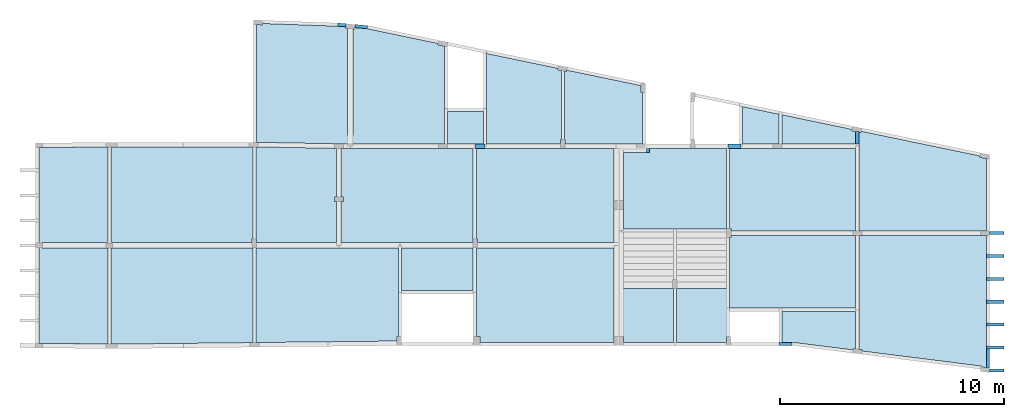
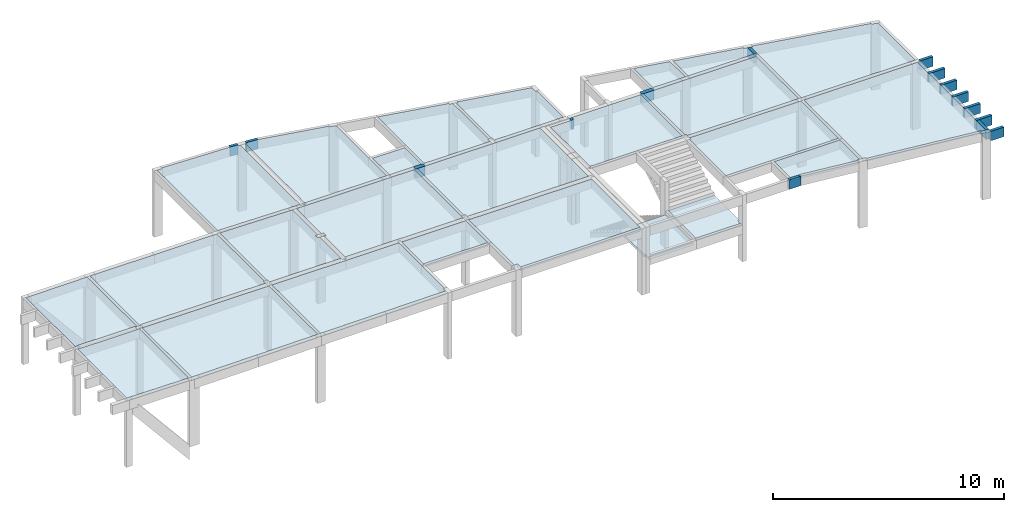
# One storey, part 3 of 4: 25 slabs, 15 beams.
"""IFC4 building model written with IfcOpenShell, lengths in centimetres."""

from ifc_helpers import new_model, si_unit, derived_unit, frame, origin, origin_with_axes, origin_2d_with_axis, place, context, project, spatial, polyline, rectangle, outline, extrude, clip, halfspace, material, element, save


model = new_model("IFC4")

# Units and contexts
model_context = context("Model", 3, precision=1e-05, world=origin_with_axes(), identifier="Body")
ifc_project = project(units=[si_unit("LENGTHUNIT", "METRE", prefix="CENTI"), si_unit("VOLUMEUNIT", "CUBIC_METRE"), si_unit("AREAUNIT", "SQUARE_METRE"), si_unit("POWERUNIT", "WATT"), si_unit("LUMINOUSFLUXUNIT", "LUMEN"), si_unit("ELECTRICCURRENTUNIT", "AMPERE"), si_unit("PRESSUREUNIT", "PASCAL", prefix="KILO"), si_unit("MASSUNIT", "GRAM", prefix="KILO"), si_unit("PLANEANGLEUNIT", "RADIAN"), derived_unit("VOLUMETRICFLOWRATEUNIT", [(si_unit("LENGTHUNIT", "METRE"), 3), (si_unit("TIMEUNIT", "SECOND"), -1)])], contexts=[model_context])

# Site, building, storey
site_placement = place(None, origin_with_axes())
site = spatial("IfcSite", under=ifc_project, at=site_placement)
building_placement = place(site_placement, origin())
building = spatial("IfcBuilding", under=site, at=building_placement)
placement_1 = place(building_placement, origin_with_axes())
placement_2 = place(placement_1, frame((0.0, 0.0, 550.0), z_axis=(0.0, 0.0, 1.0), x_axis=(1.0, 0.0, 0.0)))
placement_3 = place(placement_2, frame((0.0, 0.0, 350.0), z_axis=(0.0, 0.0, 1.0), x_axis=(1.0, 0.0, 0.0)))
storey_placement = place(placement_3, frame((0.0, 0.0, 350.0), z_axis=(0.0, 0.0, 1.0), x_axis=(1.0, 0.0, 0.0)))
storey = spatial("IfcBuildingStorey", under=building, at=storey_placement, Name="2º PAV.", CompositionType="ELEMENT", Elevation=1250.0)

# Beams
ifc_material = material(Name="Concreto")
beam_1_placement = place(storey_placement, frame((4338.1, -843.1, 0.0), z_axis=(0.0, 0.0, 1.0), x_axis=(1.0, 0.0, 0.0)))
element("IfcBeam", 1, at=beam_1_placement, inside=storey, material=ifc_material, Name="V11", context=model_context, shape_type="SolidModel", body=[
    extrude(rectangle(XDim=14.0, YDim=50.0, at=origin_2d_with_axis()), frame((-32.5, 0.0, -25.0), z_axis=(1.0, 0.0, 0.0), x_axis=(0.0, 1.0, 0.0)), (0.0, 0.0, 1.0), 65.0),
])
for number, where, z_axis, x_axis, name in (
    (2, (4331.1, -945.1, 0.0), (0.0, 0.0, 1.0), (1.0, 0.0, 0.0), "V14"),
    (3, (4331.1, -1047.15, 0.0), (0.0, 0.0, 1.0), (1.0, 0.0, 0.0), "V16"),
    (4, (4331.1, -1149.15, 0.0), (0.0, 0.0, 1.0), (1.0, 0.0, 0.0), "V20"),
    (5, (4331.1, -1251.15, 0.0), (0.0, 0.0, 1.0), (1.0, 0.0, 0.0), "V22"),
    (6, (4331.1, -1353.2, 0.0), (0.0, 0.0, 1.0), (1.0, 0.0, 0.0), "V25"),
):
    element("IfcBeam", number, at=place(storey_placement, frame(where, z_axis=z_axis, x_axis=x_axis)), inside=storey, material=ifc_material, Name=name, context=model_context, shape_type="SolidModel", body=[
        extrude(rectangle(XDim=14.0, YDim=50.0, at=origin_2d_with_axis()), frame((-39.5, 0.0, -25.0), z_axis=(1.0, 0.0, 0.0), x_axis=(0.0, 1.0, 0.0)), (0.0, 0.0, 1.0), 79.0),
    ])
beam_2_placement = place(storey_placement, frame((4337.368383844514, -1455.2, 0.0), z_axis=(0.0, 0.0, 1.0), x_axis=(1.0, 0.0, 0.0)))
element("IfcBeam", 7, at=beam_2_placement, inside=storey, material=ifc_material, Name="V26", context=model_context, shape_type="SolidModel", body=[
    extrude(rectangle(XDim=14.0, YDim=50.0, at=origin_2d_with_axis()), frame((-33.231616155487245, 0.0, -25.0), z_axis=(1.0, 0.0, 0.0), x_axis=(0.0, 1.0, 0.0)), (0.0, 0.0, 1.0), 66.46323231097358),
])
beam_3_placement = place(storey_placement, frame((2034.8, -455.9, 0.0), z_axis=(0.0, 0.0, 1.0), x_axis=(1.0, 0.0, 0.0)))
element("IfcBeam", 8, at=beam_3_placement, inside=storey, material=ifc_material, Name="V3", context=model_context, shape_type="SolidModel", body=[
    extrude(rectangle(XDim=20.0, YDim=50.0, at=origin_2d_with_axis()), frame((-23.2, 0.0, -25.0), z_axis=(1.0, 0.0, 0.0), x_axis=(0.0, 1.0, 0.0)), (0.0, 0.0, 1.0), 46.4),
])
beam_4_placement = place(storey_placement, frame((2784.0, -474.925, 0.0), z_axis=(0.0, 0.0, 1.0), x_axis=(1.0, 0.0, 0.0)))
element("IfcBeam", 9, at=beam_4_placement, inside=storey, material=ifc_material, Name="V40", context=model_context, shape_type="SolidModel", body=[
    extrude(rectangle(XDim=14.0, YDim=50.0, at=origin_2d_with_axis()), frame((0.0, -9.025, -25.0), z_axis=(0.0, 1.0, 0.0), x_axis=(1.0, 0.0, 0.0)), (0.0, 0.0, 1.0), 18.05),
])
beam_5_placement = place(storey_placement, frame((3716.6, -418.10970030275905, 0.0), z_axis=(0.0, 0.0, 1.0), x_axis=(1.0, 0.0, 0.0)))
element("IfcBeam", 10, at=beam_5_placement, inside=storey, material=ifc_material, Name="V48", context=model_context, shape_type="SolidModel", body=[
    extrude(rectangle(XDim=14.0, YDim=50.0, at=origin_2d_with_axis()), frame((0.0, -27.79029969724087, -25.0), z_axis=(0.0, 1.0, 0.0), x_axis=(1.0, 0.0, 0.0)), (0.0, 0.0, 1.0), 55.580599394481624),
])
beam_6_placement = place(storey_placement, frame((4298.6, -1402.3660584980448, 0.0), z_axis=(0.0, 0.0, 1.0), x_axis=(1.0, 0.0, 0.0)))
element("IfcBeam", 11, at=beam_6_placement, inside=storey, material=ifc_material, Name="V49", context=model_context, shape_type="SolidModel", body=[
    extrude(rectangle(XDim=14.0, YDim=50.0, at=origin_2d_with_axis()), frame((0.0, -42.166058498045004, -25.0), z_axis=(0.0, 1.0, 0.0), x_axis=(1.0, 0.0, 0.0)), (0.0, 0.0, 1.0), 84.33211699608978),
])
beam_7_placement = place(storey_placement, frame((3169.8, -455.9, 0.0), z_axis=(0.0, 0.0, 1.0), x_axis=(1.0, 0.0, 0.0)))
element("IfcBeam", 12, at=beam_7_placement, inside=storey, material=ifc_material, Name="V5", context=model_context, shape_type="SolidModel", body=[
    extrude(rectangle(XDim=20.0, YDim=50.0, at=origin_2d_with_axis()), frame((-29.2, 0.0, -25.0), z_axis=(1.0, 0.0, 0.0), x_axis=(0.0, 1.0, 0.0)), (0.0, 0.0, 1.0), 58.4),
])
beam_8_placement = place(storey_placement, frame((1505.3493357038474, 77.27788294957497, 0.0), z_axis=(0.0, 0.0, 1.0), x_axis=(1.0, 0.0, 0.0)))
element("IfcBeam", 13, at=beam_8_placement, inside=storey, material=ifc_material, Name="V50", context=model_context, shape_type="Clipping", body=[
    clip(extrude(rectangle(XDim=14.0, YDim=50.0, at=origin_2d_with_axis()), frame((-28.0693357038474, 2.362117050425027, -25.0), z_axis=(0.99637095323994, -0.085117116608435, 0.0), x_axis=(0.085117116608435, 0.99637095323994, 0.0)), (0.0, 0.0, 1.0), 56.343143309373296), halfspace(frame((28.66515552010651, 4.540947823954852, -50.0), z_axis=(-0.989480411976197, 0.144666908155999, 0.0), x_axis=(0.0, 0.0, -0.059920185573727)), True)),
])
beam_9_placement = place(storey_placement, frame((1419.3262803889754, 84.60237581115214, 0.0), z_axis=(0.0, 0.0, 1.0), x_axis=(1.0, 0.0, 0.0)))
element("IfcBeam", 14, at=beam_9_placement, inside=storey, material=ifc_material, Name="V50", context=model_context, shape_type="Clipping", body=[
    clip(extrude(rectangle(XDim=14.0, YDim=50.0, at=origin_2d_with_axis()), frame((-18.448841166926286, 1.562375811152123, -25.0), z_axis=(0.996365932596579, -0.085175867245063, 0.0), x_axis=(0.085175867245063, 0.996365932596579, 0.0)), (0.0, 0.0, 1.0), 36.68587973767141), halfspace(frame((-17.85261009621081, 8.536937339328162, 0.0), z_axis=(0.998167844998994, -0.060505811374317, 0.0), x_axis=(0.0, 0.0, -0.024733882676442)), True)),
])
beam_10_placement = place(storey_placement, frame((3397.217338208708, -1337.0556334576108, 0.0), z_axis=(0.0, 0.0, 1.0), x_axis=(1.0, 0.0, 0.0)))
element("IfcBeam", 15, at=beam_10_placement, inside=storey, material=ifc_material, Name="V52", context=model_context, shape_type="Clipping", body=[
    clip(extrude(rectangle(XDim=14.0, YDim=50.0, at=origin_2d_with_axis()), frame((-29.618689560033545, -0.005718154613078, -25.0), z_axis=(1.0, 0.000193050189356, 0.0), x_axis=(-0.000193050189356, 1.0, 0.0)), (0.0, 0.0, 1.0), 59.24008292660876), halfspace(frame((29.620040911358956, 7.005718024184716, -50.0), z_axis=(-0.998053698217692, 0.06236036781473, 0.0), x_axis=(0.0, 0.0, -0.062553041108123)), True)),
])

# Slabs
slab_1_placement = place(storey_placement, frame((1243.2995, -177.359, 0.0), z_axis=(0.0, 0.0, 1.0), x_axis=(1.0, 0.0, 0.0)))
element("IfcSlab", 16, at=slab_1_placement, inside=storey, material=ifc_material, Name="L1", PredefinedType="FLOOR", context=model_context, shape_type="SolidModel", body=[
    extrude(outline(polyline([(201.299, -268.540344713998), (201.299, -265.6913447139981), (203.799, -265.6913447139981), (203.799, -231.69134471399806), (201.299, -231.69134471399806), (201.299, 246.72665528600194), (193.009, 247.43765528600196), (193.523, 253.42465528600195), (157.33, 256.52865528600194), (-178.341, 268.540655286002), (-178.56, 262.5586552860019), (-203.8, 263.47965528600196), (-203.799, -261.440344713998), (-198.3, -261.4413447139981), (182.7, -268.541344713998), (201.299, -268.540344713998), (201.299, -268.540344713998)])), frame((0.0005, 0.000344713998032, -15.0), z_axis=(0.0, 0.0, 1.0), x_axis=(1.0, 0.0, 0.0)), (0.0, 0.0, 1.0), 15.0),
])
slab_2_placement = place(storey_placement, frame((706.225, -674.11, 0.0), z_axis=(0.0, 0.0, 1.0), x_axis=(1.0, 0.0, 0.0)))
element("IfcSlab", 17, at=slab_2_placement, inside=storey, material=ifc_material, Name="L10", PredefinedType="FLOOR", context=model_context, shape_type="SolidModel", body=[
    extrude(outline(polyline([(-311.475, -211.429), (313.284, -211.41), (313.345, -194.26), (316.474, -194.27), (316.475, 215.31), (-316.474, 215.31), (-316.475, -215.31), (-311.475, -215.31), (-311.475, -211.429), (-311.475, -211.429)])), frame((0.0, 0.0, -20.0), z_axis=(0.0, 0.0, 1.0), x_axis=(1.0, 0.0, 0.0)), (0.0, 0.0, 1.0), 20.0),
])
slab_3_placement = place(storey_placement, frame((1216.3505, -672.1595, 0.0), z_axis=(0.0, 0.0, 1.0), x_axis=(1.0, 0.0, 0.0)))
element("IfcSlab", 18, at=slab_3_placement, inside=storey, material=ifc_material, Name="L11", PredefinedType="FLOOR", context=model_context, shape_type="SolidModel", body=[
    extrude(outline(polyline([(179.649, -30.739), (169.65, -30.739), (169.65, -10.739), (179.65, -10.739), (179.65, 206.26), (169.65, 206.26), (169.65, 207.005), (-171.35, 213.36), (-179.649, 213.36), (-179.649, -196.269), (-176.78, -196.28), (-176.839, -213.359), (179.649, -213.359), (179.649, -30.739), (179.649, -30.739)])), frame((-0.0005, -0.0005, -20.0), z_axis=(0.0, 0.0, 1.0), x_axis=(1.0, 0.0, 0.0)), (0.0, 0.0, 1.0), 20.0),
])
slab_4_placement = place(storey_placement, frame((1710.2995, -675.71, 0.0), z_axis=(0.0, 0.0, 1.0), x_axis=(1.0, 0.0, 0.0)))
element("IfcSlab", 19, at=slab_4_placement, inside=storey, material=ifc_material, Name="L12", PredefinedType="FLOOR", context=model_context, shape_type="SolidModel", body=[
    extrude(outline(polyline([(-294.299, -209.81), (294.299, -209.809), (294.299, 209.81), (-294.3, 209.81), (-294.3, -7.189), (-284.3, -7.189), (-284.3, -27.189), (-294.3, -27.189), (-294.299, -209.81), (-294.299, -209.81)])), frame((0.0005, 0.0, -20.0), z_axis=(0.0, 0.0, 1.0), x_axis=(1.0, 0.0, 0.0)), (0.0, 0.0, 1.0), 20.0),
])
slab_5_placement = place(storey_placement, frame((2325.1, -675.7095, 0.0), z_axis=(0.0, 0.0, 1.0), x_axis=(1.0, 0.0, 0.0)))
element("IfcSlab", 20, at=slab_5_placement, inside=storey, material=ifc_material, Name="L13", PredefinedType="FLOOR", context=model_context, shape_type="SolidModel", body=[
    extrude(outline(polyline([(306.5, -209.809), (306.499, 209.81), (-306.5, 209.81), (-306.5, -192.69), (-300.5, -192.689), (-300.5, -209.809), (306.5, -209.809), (306.5, -209.809)])), frame((0.0, -0.0005, -20.0), z_axis=(0.0, 0.0, 1.0), x_axis=(1.0, 0.0, 0.0)), (0.0, 0.0, 1.0), 20.0),
])
slab_6_placement = place(storey_placement, frame((2903.5995, -645.0, 0.0), z_axis=(0.0, 0.0, 1.0), x_axis=(1.0, 0.0, 0.0)))
element("IfcSlab", 21, at=slab_6_placement, inside=storey, material=ifc_material, Name="L14", PredefinedType="FLOOR", context=model_context, shape_type="SolidModel", body=[
    extrude(outline(polyline([(229.999, -179.099), (229.999, 179.1), (-112.599, 179.099), (-112.6, 168.05), (-119.6, 168.05), (-119.6, 161.05), (-230.0, 161.049), (-229.999, -179.1), (229.999, -179.099), (229.999, -179.099)])), frame((0.0005, 0.0, -15.0), z_axis=(0.0, 0.0, 1.0), x_axis=(1.0, 0.0, 0.0)), (0.0, 0.0, 1.0), 15.0),
])
slab_7_placement = place(storey_placement, frame((3428.6, -649.5005, 0.0), z_axis=(0.0, 0.0, 1.0), x_axis=(1.0, 0.0, 0.0)))
element("IfcSlab", 22, at=slab_7_placement, inside=storey, material=ifc_material, Name="L15", PredefinedType="FLOOR", context=model_context, shape_type="SolidModel", body=[
    extrude(outline(polyline([(281.0, -183.599), (281.0, 183.599), (-280.999, 183.599), (-281.0, -174.099), (-275.0, -174.1), (-275.0, -183.6), (281.0, -183.599), (281.0, -183.599)])), frame((0.0, 0.0005, -15.0), z_axis=(0.0, 0.0, 1.0), x_axis=(1.0, 0.0, 0.0)), (0.0, 0.0, 1.0), 15.0),
])
slab_8_placement = place(storey_placement, frame((3428.6, -1015.5005, 0.0), z_axis=(0.0, 0.0, 1.0), x_axis=(1.0, 0.0, 0.0)))
element("IfcSlab", 23, at=slab_8_placement, inside=storey, material=ifc_material, Name="L16", PredefinedType="FLOOR", context=model_context, shape_type="SolidModel", body=[
    extrude(outline(polyline([(280.999, 162.399), (-275.0, 162.399), (-275.0, 151.899), (-281.0, 151.899), (-280.999, -162.4), (281.0, -162.4), (280.999, 162.399), (280.999, 162.399)])), frame((0.0, 0.0005, -15.0), z_axis=(0.0, 0.0, 1.0), x_axis=(1.0, 0.0, 0.0)), (0.0, 0.0, 1.0), 15.0),
])
slab_9_placement = place(storey_placement, frame((4007.6, -1147.9315, 0.0), z_axis=(0.0, 0.0, 1.0), x_axis=(1.0, 0.0, 0.0)))
element("IfcSlab", 24, at=slab_9_placement, inside=storey, material=ifc_material, Name="L17", PredefinedType="FLOOR", context=model_context, shape_type="SolidModel", body=[
    extrude(outline(polyline([(283.999, -294.8314240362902), (284.0, 294.8315759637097), (-283.999, 294.8315759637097), (-284.0, -213.3304240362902), (-268.65, -215.2684240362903), (-269.405, -221.24242403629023), (262.54, -288.1474240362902), (262.045, -292.05442403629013), (283.999, -294.8314240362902), (283.999, -294.8314240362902)])), frame((0.0, -7.5963709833e-05, -15.0), z_axis=(0.0, 0.0, 1.0), x_axis=(1.0, 0.0, 0.0)), (0.0, 0.0, 1.0), 15.0),
])
slab_10_placement = place(storey_placement, frame((222.1755, -1123.315, 0.0), z_axis=(0.0, 0.0, 1.0), x_axis=(1.0, 0.0, 0.0)))
element("IfcSlab", 25, at=slab_10_placement, inside=storey, material=ifc_material, Name="L18", PredefinedType="FLOOR", context=model_context, shape_type="SolidModel", body=[
    extrude(outline(polyline([(153.574, 213.894), (148.575, 213.894), (148.575, 212.775), (-140.625, 212.775), (-140.625, 214.885), (-153.574, 214.885), (-153.574, -211.385), (-137.575, -211.385), (-137.575, -211.66), (148.664, -214.125), (148.661, -214.885), (153.575, -214.885), (153.574, 213.894), (153.574, 213.894)])), frame((-0.0005, 0.0, -15.0), z_axis=(0.0, 0.0, 1.0), x_axis=(1.0, 0.0, 0.0)), (0.0, 0.0, 1.0), 15.0),
])
slab_11_placement = place(storey_placement, frame((706.225, -1123.2855, 0.0), z_axis=(0.0, 0.0, 1.0), x_axis=(1.0, 0.0, 0.0)))
element("IfcSlab", 26, at=slab_11_placement, inside=storey, material=ifc_material, Name="L19", PredefinedType="FLOOR", context=model_context, shape_type="SolidModel", body=[
    extrude(outline(polyline([(7.395, -211.6146739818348), (303.475, -208.32767398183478), (303.475, -207.71467398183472), (316.475, -207.71467398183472), (316.475, 214.9133260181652), (316.248, 214.9143260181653), (316.245, 212.7653260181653), (-311.475, 212.74532601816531), (-311.475, 213.86432601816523), (-316.475, 213.86432601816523), (-316.475, -214.91467398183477), (-288.475, -214.91467398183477), (7.395, -211.6146739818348), (7.395, -211.6146739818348)])), frame((0.0, 0.000173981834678, -20.0), z_axis=(0.0, 0.0, 1.0), x_axis=(1.0, 0.0, 0.0)), (0.0, 0.0, 1.0), 20.0),
])
slab_12_placement = place(storey_placement, frame((1672.05, -186.6175, 0.0), z_axis=(0.0, 0.0, 1.0), x_axis=(1.0, 0.0, 0.0)))
element("IfcSlab", 27, at=slab_12_placement, inside=storey, material=ifc_material, Name="L2", PredefinedType="FLOOR", context=model_context, shape_type="SolidModel", body=[
    extrude(outline(polyline([(204.949, -259.2812036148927), (204.95, 176.6857963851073), (175.729, 182.7377963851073), (176.942, 188.59879638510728), (-140.079, 254.56379638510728), (-195.364, 259.28179638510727), (-195.879, 253.27779638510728), (-202.449, 253.8407963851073), (-202.45, -222.43220361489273), (-204.95, -222.43220361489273), (-204.95, -256.4322036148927), (-202.45, -256.4322036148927), (-202.45, -259.2812036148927), (204.949, -259.2812036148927), (204.949, -259.2812036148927)])), frame((0.0, -0.000296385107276, -15.0), z_axis=(0.0, 0.0, 1.0), x_axis=(1.0, 0.0, 0.0)), (0.0, 0.0, 1.0), 15.0),
])
slab_13_placement = place(storey_placement, frame((1353.65, -1120.76, 0.0), z_axis=(0.0, 0.0, 1.0), x_axis=(1.0, 0.0, 0.0)))
element("IfcSlab", 28, at=slab_13_placement, inside=storey, material=ifc_material, Name="L20", PredefinedType="FLOOR", context=model_context, shape_type="SolidModel", body=[
    extrude(outline(polyline([(3.389, -206.98), (310.949, -203.563), (310.949, -183.339), (316.949, -183.34), (316.95, 210.239), (-316.95, 210.24), (-316.949, -210.24), (-303.949, -210.24), (3.389, -206.98), (3.389, -206.98)])), frame((0.0, 0.0, -20.0), z_axis=(0.0, 0.0, 1.0), x_axis=(1.0, 0.0, 0.0)), (0.0, 0.0, 1.0), 20.0),
])
slab_14_placement = place(storey_placement, frame((1844.6, -1005.2095, 0.0), z_axis=(0.0, 0.0, 1.0), x_axis=(1.0, 0.0, 0.0)))
element("IfcSlab", 29, at=slab_14_placement, inside=storey, material=ifc_material, Name="L21", PredefinedType="FLOOR", context=model_context, shape_type="SolidModel", body=[
    extrude(outline(polyline([(160.0, 94.69), (-160.0, 94.69), (-160.0, -94.689), (159.999, -94.689), (160.0, 94.69), (160.0, 94.69)])), frame((0.0, -0.0005, -20.0), z_axis=(0.0, 0.0, 1.0), x_axis=(1.0, 0.0, 0.0)), (0.0, 0.0, 1.0), 20.0),
])
slab_15_placement = place(storey_placement, frame((2325.0995, -1119.25, 0.0), z_axis=(0.0, 0.0, 1.0), x_axis=(1.0, 0.0, 0.0)))
element("IfcSlab", 30, at=slab_15_placement, inside=storey, material=ifc_material, Name="L22", PredefinedType="FLOOR", context=model_context, shape_type="SolidModel", body=[
    extrude(outline(polyline([(306.499, 208.73), (-303.5, 208.73), (-303.5, 210.85), (-306.5, 210.849), (-306.499, -184.85), (-290.5, -184.849), (-290.5, -210.849), (306.499, -210.85), (306.499, 208.73), (306.499, 208.73)])), frame((0.0005, 0.0, -20.0), z_axis=(0.0, 0.0, 1.0), x_axis=(1.0, 0.0, 0.0)), (0.0, 0.0, 1.0), 20.0),
])
slab_16_placement = place(storey_placement, frame((3545.6, -1278.043, 0.0), z_axis=(0.0, 0.0, 1.0), x_axis=(1.0, 0.0, 0.0)))
element("IfcSlab", 31, at=slab_16_placement, inside=storey, material=ifc_material, Name="L23", PredefinedType="FLOOR", context=model_context, shape_type="SolidModel", body=[
    extrude(outline(polyline([(153.66, -80.14696897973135), (164.0, -81.45196897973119), (164.0, 86.14303102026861), (-163.999, 86.14303102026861), (-164.0, -52.01496897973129), (-119.199, -52.00596897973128), (-119.199, -59.00596897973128), (-118.33, -52.05596897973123), (152.904, -86.14296897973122), (153.66, -80.14696897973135), (153.66, -80.14696897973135)])), frame((0.0, -3.102026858e-05, -22.0), z_axis=(0.0, 0.0, 1.0), x_axis=(1.0, 0.0, 0.0)), (0.0, 0.0, 1.0), 22.0),
])
slab_17_placement = place(storey_placement, frame((2231.25, -244.369, 0.0), z_axis=(0.0, 0.0, 1.0), x_axis=(1.0, 0.0, 0.0)))
element("IfcSlab", 32, at=slab_17_placement, inside=storey, material=ifc_material, Name="L3", PredefinedType="FLOOR", context=model_context, shape_type="SolidModel", body=[
    extrude(outline(polyline([(163.25, -181.53013458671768), (166.25, -181.53113458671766), (166.25, 126.37886541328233), (149.88, 129.79886541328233), (151.103, 135.6578654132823), (-166.249, 201.53086541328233), (-166.25, -201.53113458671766), (163.25, -201.53113458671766), (163.25, -181.53013458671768), (163.25, -181.53013458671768)])), frame((0.0, 0.00013458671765, -15.0), z_axis=(0.0, 0.0, 1.0), x_axis=(1.0, 0.0, 0.0)), (0.0, 0.0, 1.0), 15.0),
])
slab_18_placement = place(storey_placement, frame((2585.25, -281.371, 0.0), z_axis=(0.0, 0.0, 1.0), x_axis=(1.0, 0.0, 0.0)))
element("IfcSlab", 33, at=slab_18_placement, inside=storey, material=ifc_material, Name="L4", PredefinedType="FLOOR", context=model_context, shape_type="SolidModel", body=[
    extrude(outline(polyline([(173.75, 65.87954786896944), (167.75, 65.87954786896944), (167.749, 95.73054786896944), (-163.725, 164.5285478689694), (-164.96, 158.62054786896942), (-173.75, 160.45654786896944), (-173.75, -144.52845213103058), (-170.75, -144.52845213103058), (-170.749, -164.52945213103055), (173.75, -164.52945213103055), (173.75, 65.87954786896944), (173.75, 65.87954786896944)])), frame((0.0, 0.000452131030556, -15.0), z_axis=(0.0, 0.0, 1.0), x_axis=(1.0, 0.0, 0.0)), (0.0, 0.0, 1.0), 15.0),
])
slab_19_placement = place(storey_placement, frame((1971.0, -373.925, 0.0), z_axis=(0.0, 0.0, 1.0), x_axis=(1.0, 0.0, 0.0)))
element("IfcSlab", 34, at=slab_19_placement, inside=storey, material=ifc_material, Name="L5", PredefinedType="FLOOR", context=model_context, shape_type="SolidModel", body=[
    extrude(outline(polyline([(79.999, 71.974), (-80.0, 71.974), (-80.0, -71.974), (80.0, -71.974), (79.999, 71.974), (79.999, 71.974)])), frame((0.0, 0.0, -15.0), z_axis=(0.0, 0.0, 1.0), x_axis=(1.0, 0.0, 0.0)), (0.0, 0.0, 1.0), 15.0),
])
slab_20_placement = place(storey_placement, frame((3286.7995, -362.779, 0.0), z_axis=(0.0, 0.0, 1.0), x_axis=(1.0, 0.0, 0.0)))
element("IfcSlab", 35, at=slab_20_placement, inside=storey, material=ifc_material, Name="L6", PredefinedType="FLOOR", context=model_context, shape_type="SolidModel", body=[
    extrude(outline(polyline([(-80.8, -83.12111332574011), (80.799, -83.12011332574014), (80.799, 49.57688667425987), (-80.8, 83.12088667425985), (-80.8, -83.12111332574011), (-80.8, -83.12111332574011)])), frame((0.0005, 0.000113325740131, -15.0), z_axis=(0.0, 0.0, 1.0), x_axis=(1.0, 0.0, 0.0)), (0.0, 0.0, 1.0), 15.0),
])
slab_21_placement = place(storey_placement, frame((3545.6, -381.004, 0.0), z_axis=(0.0, 0.0, 1.0), x_axis=(1.0, 0.0, 0.0)))
element("IfcSlab", 36, at=slab_21_placement, inside=storey, material=ifc_material, Name="L7", PredefinedType="FLOOR", context=model_context, shape_type="SolidModel", body=[
    extrude(outline(polyline([(164.0, -9.31805229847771), (147.329, -5.835052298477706), (148.551, 0.012947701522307), (-164.0, 64.89594770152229), (-164.0, -64.89505229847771), (163.999, -64.89605229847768), (164.0, -9.31805229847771), (164.0, -9.31805229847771)])), frame((0.0, 5.2298477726e-05, -15.0), z_axis=(0.0, 0.0, 1.0), x_axis=(1.0, 0.0, 0.0)), (0.0, 0.0, 1.0), 15.0),
])
slab_22_placement = place(storey_placement, frame((4007.6, -611.1105, 0.0), z_axis=(0.0, 0.0, 1.0), x_axis=(1.0, 0.0, 0.0)))
element("IfcSlab", 37, at=slab_22_placement, inside=storey, material=ifc_material, Name="L8", PredefinedType="FLOOR", context=model_context, shape_type="SolidModel", body=[
    extrude(outline(polyline([(284.0, 100.00032626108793), (254.759, 106.11032626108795), (255.977, 111.93832626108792), (-274.277, 221.98932626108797), (-275.509, 216.09032626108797), (-284.0, 217.86332626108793), (-283.999, -221.98867373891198), (283.999, -221.98967373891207), (284.0, 100.00032626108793), (284.0, 100.00032626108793)])), frame((0.0, 0.000173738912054, -15.0), z_axis=(0.0, 0.0, 1.0), x_axis=(1.0, 0.0, 0.0)), (0.0, 0.0, 1.0), 15.0),
])
slab_23_placement = place(storey_placement, frame((222.175, -674.3145, 0.0), z_axis=(0.0, 0.0, 1.0), x_axis=(1.0, 0.0, 0.0)))
element("IfcSlab", 38, at=slab_23_placement, inside=storey, material=ifc_material, Name="L9", PredefinedType="FLOOR", context=model_context, shape_type="SolidModel", body=[
    extrude(outline(polyline([(153.575, 215.1052568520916), (-137.535, 212.2732568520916), (-153.575, 212.16125685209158), (-153.575, -214.11474314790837), (-140.625, -214.11474314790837), (-140.625, -211.22474314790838), (148.575, -211.22474314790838), (148.575, -215.10574314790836), (153.574, -215.10574314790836), (153.575, 215.1052568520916), (153.575, 215.1052568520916)])), frame((0.0, 0.00024314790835, -15.0), z_axis=(0.0, 0.0, 1.0), x_axis=(1.0, 0.0, 0.0)), (0.0, 0.0, 1.0), 15.0),
])
slab_24_placement = place(storey_placement, frame((2781.5995, -1210.0995, -172.0), z_axis=(0.0, 0.0, 1.0), x_axis=(1.0, 0.0, 0.0)))
element("IfcSlab", 39, at=slab_24_placement, inside=storey, material=ifc_material, Name="LE2", PredefinedType="LANDING", context=model_context, shape_type="SolidModel", body=[
    extrude(outline(polyline([(114.999, 120.0), (-115.0, 120.0), (-114.999, -93.999), (-108.0, -93.999), (-108.0, -119.999), (114.999, -119.999), (114.999, 120.0), (114.999, 120.0)])), frame((0.0005, -0.0005, -15.0), z_axis=(0.0, 0.0, 1.0), x_axis=(1.0, 0.0, 0.0)), (0.0, 0.0, 1.0), 15.0),
])
slab_25_placement = place(storey_placement, frame((3025.6, -1210.1, -154.5), z_axis=(0.0, 0.0, 1.0), x_axis=(1.0, 0.0, 0.0)))
element("IfcSlab", 40, at=slab_25_placement, inside=storey, material=ifc_material, Name="LE3", PredefinedType="LANDING", context=model_context, shape_type="SolidModel", body=[
    extrude(outline(polyline([(107.999, -119.999), (107.999, -93.999), (115.0, -93.999), (114.999, 120.0), (-115.0, 120.0), (-114.999, -120.0), (107.999, -119.999), (107.999, -119.999)])), frame((0.0, 0.0, -15.0), z_axis=(0.0, 0.0, 1.0), x_axis=(1.0, 0.0, 0.0)), (0.0, 0.0, 1.0), 15.0),
])

save(model, "model.ifc")
